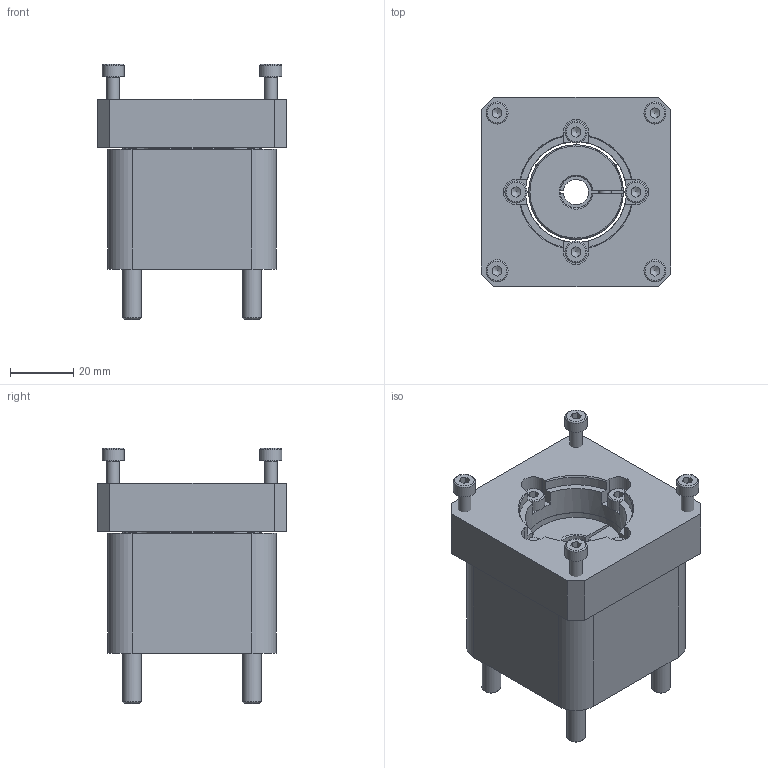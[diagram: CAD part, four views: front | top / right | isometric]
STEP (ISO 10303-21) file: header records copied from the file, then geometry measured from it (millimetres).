
FILE_DESCRIPTION(/* description */ ('EAMK-A O - Kupplungsgehäuse'),/* implementation_level */ '2;1');
FILE_NAME(/* name */ 'C:\STORE\ホームページ用データ\\X2\30E230FC30BF53D64ED830AD30C330C8\X0\_2016_追加\3D_STEP\J08130B.stp',/* time_stamp */ '2016-03-08T13:21:45+09:00',/* author */ ('jp4te01'),/* organization */ (''),/* preprocessor_version */ 'ST-DEVELOPER v15.6',/* originating_system */ 'Autodesk Inventor 2015',/* authorisation */ '');
FILE_SCHEMA (('AUTOMOTIVE_DESIGN { 1 0 10303 214 3 1 1 }'));
Length unit declared in the file: millimetre
Products named in the file (7): 552157_EAMK_A_D40_44_1O_; DIN_912___M6x30_F_; 552157_EAMK_A_D40_44; J08126B; 558029_EAMC_30_32_8_10; コピー版 JIS B 1176 - M4 x 15; J08130B
Bounding box: 60 x 60 x 80.9 mm (x, y, z)
Volume: 124945.6 mm3; surface area: 48588 mm2
Topology: 15 solids, 15 shells, 474 faces, 1146 edges, 727 vertices
Faces by surface type: plane 243, cylinder 118, cone 91, torus 22
Full cylindrical faces by diameter (mm): 2 x12, 3.242 x10, 4 x10, 4.5 x4, 6 x4, 6.5 x4, 7 x8, 10 x4, 14.2 x1, 32 x1, 40 x1, 44 x1
Entity records: 8878 total; most frequent: CARTESIAN_POINT 1832, DIRECTION 1500, ORIENTED_EDGE 1316, EDGE_CURVE 658, AXIS2_PLACEMENT_3D 600, VERTEX_POINT 466, EDGE_LOOP 410, LINE 300
